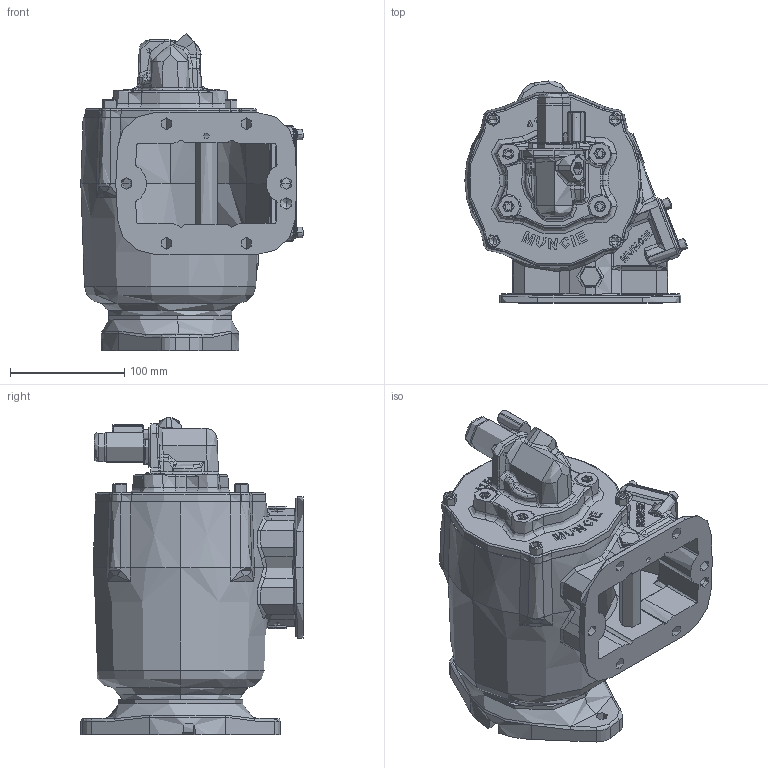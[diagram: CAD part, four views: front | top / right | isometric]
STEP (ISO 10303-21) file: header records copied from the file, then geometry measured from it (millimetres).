
FILE_DESCRIPTION (( 'STEP AP203' ), '1' );
FILE_NAME ('CS6S-XXXXX-S1SX.STEP', '2023-04-10T19:24:50', ( '' ), ( '' ), 'SwSTEP 2.0', 'SolidWorks 2021', '' );
FILE_SCHEMA (( 'CONFIG_CONTROL_DESIGN' ));
Length unit declared in the file: inch
Products named in the file (11): CS6S-XXXXX-S1SX; 19T41118; 07T37071; 25T21684-1; 15T41597; 19T35237; 16T41119; 19T40859; 14T35464; 35T40860a; 01t37073a
Assembly tree (21 placements, depth 2):
  CS6S-XXXXX-S1SX
    01t37073a
    16T41119
    14T35464
    19T41118  x4
    19T35237  x4
    15T41597
    35T40860a
    25T21684-1  x5
    07T37071
    19T40859  x2
Bounding box: 194.82 x 194.67 x 278.15 mm (x, y, z)
Topology: 20 solids, 24 shells, 2259 faces, 5726 edges, 3560 vertices
Faces by surface type: bspline 755, cylinder 575, plane 546, cone 251, torus 128, sphere 4
Entity records: 134214 total; most frequent: CARTESIAN_POINT 89077, ORIENTED_EDGE 10368, DIRECTION 6960, EDGE_CURVE 5186, VERTEX_POINT 3265, AXIS2_PLACEMENT_3D 2575, EDGE_LOOP 2253, ADVANCED_FACE 2046
